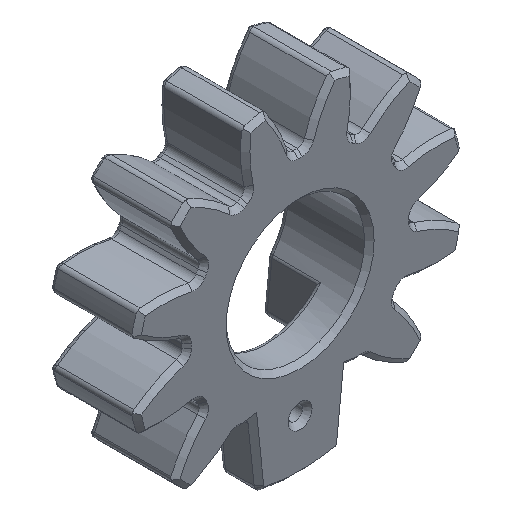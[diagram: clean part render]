
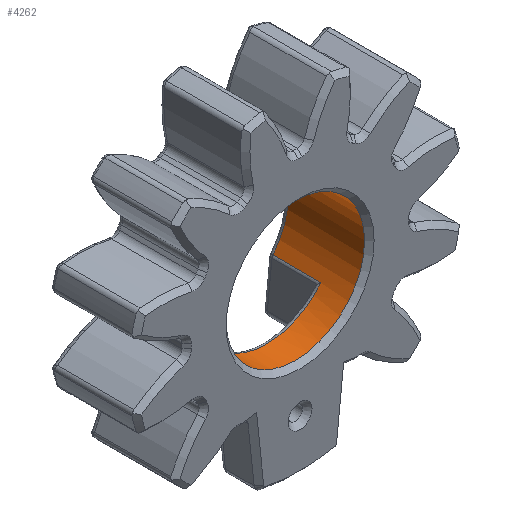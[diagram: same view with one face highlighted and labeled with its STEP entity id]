
A CAD part, isometric view. The second image highlights one B-rep face of the part: STEP entity #4262.
In plain terms, the highlighted cylindrical face has radius 3.683 mm (diameter 7.366 mm), a full revolution.
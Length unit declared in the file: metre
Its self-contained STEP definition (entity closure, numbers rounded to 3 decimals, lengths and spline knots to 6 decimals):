
#250=CYLINDRICAL_SURFACE('',#4825,0.003683);
#553=CIRCLE('',#4826,0.003683);
#554=CIRCLE('',#4827,0.003683);
#555=CIRCLE('',#4828,0.003683);
#1240=ORIENTED_EDGE('',*,*,#2550,.T.);
#1241=ORIENTED_EDGE('',*,*,#2551,.T.);
#1242=ORIENTED_EDGE('',*,*,#2552,.T.);
#1243=ORIENTED_EDGE('',*,*,#2553,.T.);
#1244=ORIENTED_EDGE('',*,*,#2554,.T.);
#2550=EDGE_CURVE('',#3176,#3177,#3353,.T.);
#2551=EDGE_CURVE('',#3177,#3178,#553,.F.);
#2552=EDGE_CURVE('',#3178,#3179,#3354,.F.);
#2553=EDGE_CURVE('',#3179,#3176,#554,.T.);
#2554=EDGE_CURVE('',#3180,#3180,#555,.T.);
#3176=VERTEX_POINT('',#7331);
#3177=VERTEX_POINT('',#7332);
#3178=VERTEX_POINT('',#7334);
#3179=VERTEX_POINT('',#7336);
#3180=VERTEX_POINT('',#7339);
#3353=LINE('',#7330,#3517);
#3354=LINE('',#7335,#3518);
#3517=VECTOR('',#5871,1.);
#3518=VECTOR('',#5874,1.);
#3663=EDGE_LOOP('',(#1240,#1241,#1242,#1243));
#3664=EDGE_LOOP('',(#1244));
#3957=FACE_BOUND('',#3663,.T.);
#3958=FACE_BOUND('',#3664,.T.);
#4262=ADVANCED_FACE('',(#3957,#3958),#250,.F.);
#4825=AXIS2_PLACEMENT_3D('',#7329,#5869,#5870);
#4826=AXIS2_PLACEMENT_3D('',#7333,#5872,#5873);
#4827=AXIS2_PLACEMENT_3D('',#7337,#5875,#5876);
#4828=AXIS2_PLACEMENT_3D('',#7338,#5877,#5878);
#5869=DIRECTION('',(0.,-1.,0.));
#5870=DIRECTION('',(0.,0.,-1.));
#5871=DIRECTION('',(0.,-1.,0.));
#5872=DIRECTION('',(0.,-1.,0.));
#5873=DIRECTION('',(0.,0.,-1.));
#5874=DIRECTION('',(0.,-1.,0.));
#5875=DIRECTION('',(0.,1.,0.));
#5876=DIRECTION('',(0.,0.,1.));
#5877=DIRECTION('',(0.,-1.,0.));
#5878=DIRECTION('',(0.,0.,-1.));
#7329=CARTESIAN_POINT('',(0.,0.,0.));
#7330=CARTESIAN_POINT('',(0.002878,0.,-0.002298));
#7331=CARTESIAN_POINT('',(0.002878,-0.000254,-0.002298));
#7332=CARTESIAN_POINT('',(0.002878,-0.002794,-0.002298));
#7333=CARTESIAN_POINT('',(0.,-0.002794,0.));
#7334=CARTESIAN_POINT('',(-0.002878,-0.002794,-0.002298));
#7335=CARTESIAN_POINT('',(-0.002878,0.,-0.002298));
#7336=CARTESIAN_POINT('',(-0.002878,-0.000254,-0.002298));
#7337=CARTESIAN_POINT('',(0.,-0.000254,0.));
#7338=CARTESIAN_POINT('',(0.,-0.004318,0.));
#7339=CARTESIAN_POINT('',(0.,-0.004318,-0.003683));
